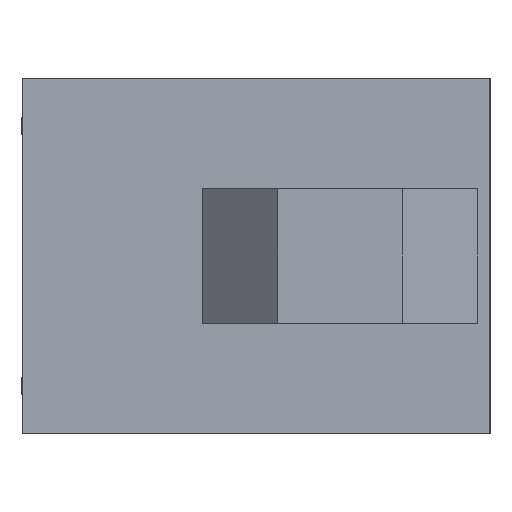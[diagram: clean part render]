
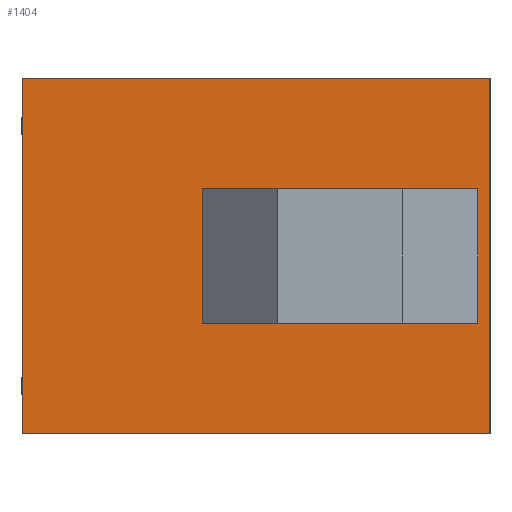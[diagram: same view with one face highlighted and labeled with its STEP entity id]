
A CAD part, front view. The second image highlights one B-rep face of the part: STEP entity #1404.
In plain terms, the highlighted planar face has unit normal (0, -1, 0) as drawn and (-1, 0, 0) by its records, which use the part's own axes.
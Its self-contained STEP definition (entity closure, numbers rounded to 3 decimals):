
#11 = DIRECTION ( 'NONE',  ( 0., -1., 0. ) ) ;
#12 = CARTESIAN_POINT ( 'NONE',  ( 0., -8.5, 9.25 ) ) ;
#18 = EDGE_CURVE ( 'NONE', #1887, #2582, #249, .T. ) ;
#170 = ORIENTED_EDGE ( 'NONE', *, *, #2143, .F. ) ;
#233 = DIRECTION ( 'NONE',  ( 1., 0., 0. ) ) ;
#243 = EDGE_CURVE ( 'NONE', #2091, #872, #2393, .T. ) ;
#249 = LINE ( 'NONE', #1240, #1879 ) ;
#282 = VERTEX_POINT ( 'NONE', #1012 ) ;
#317 = VERTEX_POINT ( 'NONE', #2623 ) ;
#328 = DIRECTION ( 'NONE',  ( 0., 0., 1. ) ) ;
#371 = CARTESIAN_POINT ( 'NONE',  ( 0., -25., 19. ) ) ;
#409 = CARTESIAN_POINT ( 'NONE',  ( 0., -7.5, 6.25 ) ) ;
#442 = EDGE_CURVE ( 'NONE', #1887, #872, #562, .T. ) ;
#470 = AXIS2_PLACEMENT_3D ( 'NONE', #2679, #233, #1677 ) ;
#479 = CARTESIAN_POINT ( 'NONE',  ( 0., -21., 19. ) ) ;
#507 = CARTESIAN_POINT ( 'NONE',  ( 0., -12., 6.25 ) ) ;
#562 = LINE ( 'NONE', #1668, #1110 ) ;
#568 = VECTOR ( 'NONE', #629, 1000. ) ;
#594 = ORIENTED_EDGE ( 'NONE', *, *, #1741, .F. ) ;
#600 = LINE ( 'NONE', #966, #1567 ) ;
#629 = DIRECTION ( 'NONE',  ( 0., -1., 0. ) ) ;
#734 = EDGE_CURVE ( 'NONE', #2091, #2582, #1494, .T. ) ;
#761 = LINE ( 'NONE', #2657, #568 ) ;
#770 = VERTEX_POINT ( 'NONE', #2363 ) ;
#797 = CARTESIAN_POINT ( 'NONE',  ( 0., -4., 9.75 ) ) ;
#872 = VERTEX_POINT ( 'NONE', #1846 ) ;
#877 = ORIENTED_EDGE ( 'NONE', *, *, #986, .F. ) ;
#966 = CARTESIAN_POINT ( 'NONE',  ( 0., -12., 19. ) ) ;
#986 = EDGE_CURVE ( 'NONE', #317, #2033, #1531, .T. ) ;
#1009 = EDGE_CURVE ( 'NONE', #770, #317, #1594, .T. ) ;
#1012 = CARTESIAN_POINT ( 'NONE',  ( 0., -12., 9.25 ) ) ;
#1110 = VECTOR ( 'NONE', #2353, 1000. ) ;
#1113 = EDGE_LOOP ( 'NONE', ( #170, #2180, #877, #1905, #594, #2274 ) ) ;
#1164 = DIRECTION ( 'NONE',  ( 0., 0., 1. ) ) ;
#1185 = CIRCLE ( 'NONE', #1975, 3.5 ) ;
#1196 = ORIENTED_EDGE ( 'NONE', *, *, #734, .F. ) ;
#1226 = CARTESIAN_POINT ( 'NONE',  ( 0., 0., 19. ) ) ;
#1240 = CARTESIAN_POINT ( 'NONE',  ( 0., -25., 19. ) ) ;
#1259 = VECTOR ( 'NONE', #2411, 1000. ) ;
#1296 = CIRCLE ( 'NONE', #1909, 3.5 ) ;
#1343 = DIRECTION ( 'NONE',  ( 0., 1., 0. ) ) ;
#1355 = CARTESIAN_POINT ( 'NONE',  ( 0., -25., 0. ) ) ;
#1404 = ADVANCED_FACE ( 'NONE', ( #2065, #1619 ), #1483, .F. ) ;
#1481 = CARTESIAN_POINT ( 'NONE',  ( 0., -4., 19. ) ) ;
#1483 = PLANE ( 'NONE',  #470 ) ;
#1485 = DIRECTION ( 'NONE',  ( -1., 0., 0. ) ) ;
#1493 = ORIENTED_EDGE ( 'NONE', *, *, #243, .T. ) ;
#1494 = LINE ( 'NONE', #479, #2008 ) ;
#1531 = LINE ( 'NONE', #1481, #2039 ) ;
#1567 = VECTOR ( 'NONE', #1164, 1000. ) ;
#1594 = LINE ( 'NONE', #2555, #2104 ) ;
#1619 = FACE_OUTER_BOUND ( 'NONE', #2655, .T. ) ;
#1668 = CARTESIAN_POINT ( 'NONE',  ( 0., 0., 0. ) ) ;
#1677 = DIRECTION ( 'NONE',  ( 0., 1., 0. ) ) ;
#1679 = DIRECTION ( 'NONE',  ( 0., 1., 0. ) ) ;
#1741 = EDGE_CURVE ( 'NONE', #282, #770, #1296, .T. ) ;
#1801 = DIRECTION ( 'NONE',  ( -1., 0., 0. ) ) ;
#1846 = CARTESIAN_POINT ( 'NONE',  ( 0., 0., 0. ) ) ;
#1879 = VECTOR ( 'NONE', #328, 1000. ) ;
#1887 = VERTEX_POINT ( 'NONE', #1355 ) ;
#1901 = DIRECTION ( 'NONE',  ( 0., 1., 0. ) ) ;
#1904 = EDGE_CURVE ( 'NONE', #2310, #282, #600, .T. ) ;
#1905 = ORIENTED_EDGE ( 'NONE', *, *, #1009, .F. ) ;
#1909 = AXIS2_PLACEMENT_3D ( 'NONE', #12, #1485, #1679 ) ;
#1975 = AXIS2_PLACEMENT_3D ( 'NONE', #2111, #1801, #1901 ) ;
#2008 = VECTOR ( 'NONE', #11, 1000. ) ;
#2029 = ORIENTED_EDGE ( 'NONE', *, *, #18, .T. ) ;
#2033 = VERTEX_POINT ( 'NONE', #797 ) ;
#2039 = VECTOR ( 'NONE', #2482, 1000. ) ;
#2065 = FACE_BOUND ( 'NONE', #1113, .T. ) ;
#2091 = VERTEX_POINT ( 'NONE', #1226 ) ;
#2104 = VECTOR ( 'NONE', #1343, 1000. ) ;
#2111 = CARTESIAN_POINT ( 'NONE',  ( 0., -7.5, 9.75 ) ) ;
#2143 = EDGE_CURVE ( 'NONE', #2148, #2310, #761, .T. ) ;
#2148 = VERTEX_POINT ( 'NONE', #409 ) ;
#2180 = ORIENTED_EDGE ( 'NONE', *, *, #2615, .F. ) ;
#2274 = ORIENTED_EDGE ( 'NONE', *, *, #1904, .F. ) ;
#2310 = VERTEX_POINT ( 'NONE', #507 ) ;
#2345 = ORIENTED_EDGE ( 'NONE', *, *, #442, .F. ) ;
#2353 = DIRECTION ( 'NONE',  ( 0., 1., 0. ) ) ;
#2363 = CARTESIAN_POINT ( 'NONE',  ( 0., -8.5, 12.75 ) ) ;
#2393 = LINE ( 'NONE', #2453, #1259 ) ;
#2411 = DIRECTION ( 'NONE',  ( 0., 0., -1. ) ) ;
#2453 = CARTESIAN_POINT ( 'NONE',  ( 0., 0., 19. ) ) ;
#2482 = DIRECTION ( 'NONE',  ( 0., 0., -1. ) ) ;
#2555 = CARTESIAN_POINT ( 'NONE',  ( 0., 4., 12.75 ) ) ;
#2582 = VERTEX_POINT ( 'NONE', #371 ) ;
#2615 = EDGE_CURVE ( 'NONE', #2033, #2148, #1185, .T. ) ;
#2623 = CARTESIAN_POINT ( 'NONE',  ( 0., -4., 12.75 ) ) ;
#2655 = EDGE_LOOP ( 'NONE', ( #2029, #1196, #1493, #2345 ) ) ;
#2657 = CARTESIAN_POINT ( 'NONE',  ( 0., 4., 6.25 ) ) ;
#2679 = CARTESIAN_POINT ( 'NONE',  ( 0., 0., 19. ) ) ;
